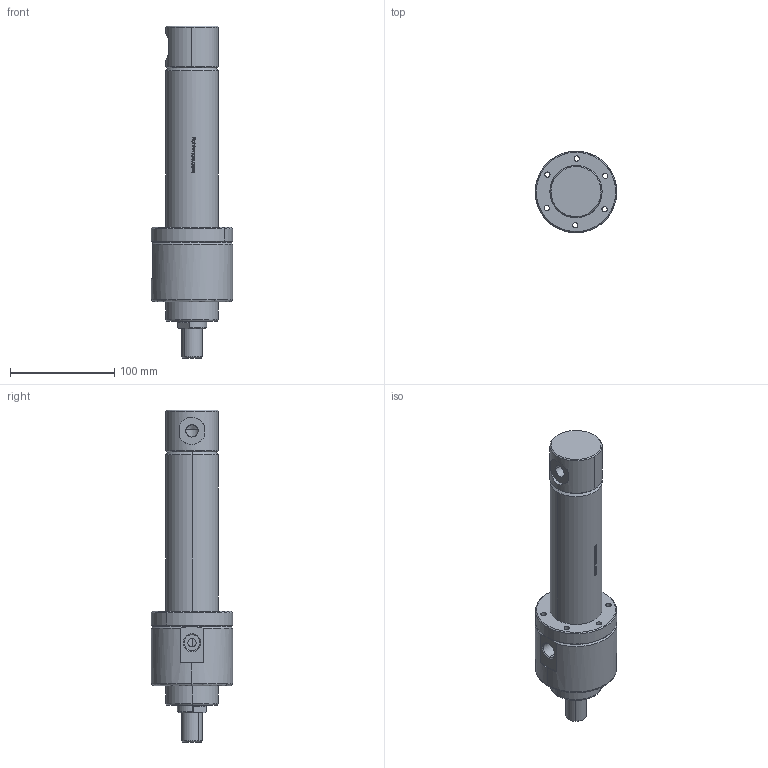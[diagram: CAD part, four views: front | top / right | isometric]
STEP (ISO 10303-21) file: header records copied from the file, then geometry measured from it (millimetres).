
FILE_DESCRIPTION (( 'STEP AP214' ), '1' );
FILE_NAME ('40_28_100_WEB.STEP', '2020-08-05T10:25:00', ( '' ), ( '' ), 'SwSTEP 2.0', 'SolidWorks 2018', '' );
FILE_SCHEMA (( 'AUTOMOTIVE_DESIGN' ));
Length unit declared in the file: millimetre
Products named in the file (11): 40_烰_KAPAK; KASTAS-K32-28X38X6; 40_25_HON_BORU_WEB; Kastas Seals-K68-28X32X9_7; 40_28_100_WEB; TYAK_40_50; KASTAS-K84-32_8X40X3_4; FLANS; 28_K_MIL_WEB; KASTAS-K06-28X36_6X5_3X7; Assem1
Assembly tree (11 placements, depth 3):
  40_28_100_WEB
    40_25_HON_BORU_WEB
    28_K_MIL_WEB
    Assem1
      40_烰_KAPAK
      KASTAS-K06-28X36_6X5_3X7
      KASTAS-K32-28X38X6
      Kastas Seals-K68-28X32X9_7  x2
      KASTAS-K84-32_8X40X3_4
    FLANS
    TYAK_40_50
Bounding box: 78 x 78 x 318 mm (x, y, z)
Volume: 500580.3 mm3; surface area: 134243.4 mm2
Topology: 10 solids, 10 shells, 483 faces, 1177 edges, 751 vertices
Faces by surface type: plane 143, cylinder 130, cone 103, bspline 103, torus 4
Entity records: 21002 total; most frequent: CARTESIAN_POINT 8059, ORIENTED_EDGE 2258, DIRECTION 2058, EDGE_CURVE 1129, AXIS2_PLACEMENT_3D 795, VERTEX_POINT 720, EDGE_LOOP 541, VECTOR 468
